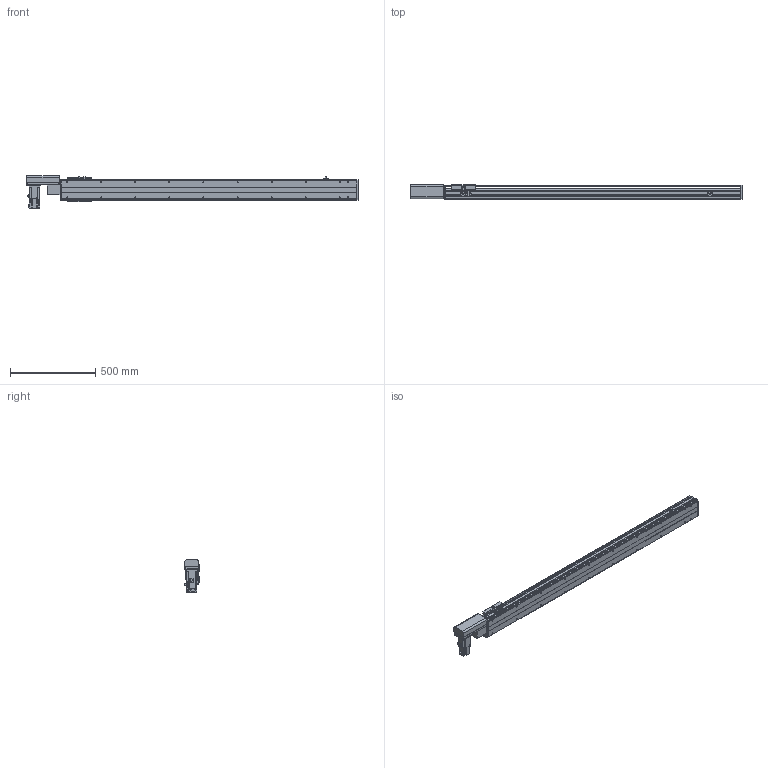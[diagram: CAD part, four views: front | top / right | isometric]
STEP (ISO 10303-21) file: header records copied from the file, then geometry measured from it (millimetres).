
FILE_DESCRIPTION( ( 'STEP AP214' ), '1' );
FILE_NAME( 'x:/temp/worker_27/temp/exporttempdir_6708_17_RYLxl/format_0/PBS120-P40-S1450-R-T40-C1-N(0).stp', '2022-06-06T00:07:52', ( 'License CC BY-ND 4.0' ), ( 'CADENAS' ), ' ', 'PARTsolutions', ' ' );
FILE_SCHEMA( ( 'AUTOMOTIVE_DESIGN { 1 0 10303 214 1 1 1 1 }' ) );
Length unit declared in the file: millimetre
Products named in the file (7): PBS120-P40-S1450-R-T40-C1-N(0); _PBS120-S1450()_body; _PBS120T-R_motors; _T40-p1; _PBS120_sliser; _PBS120_plant; _PBS120_sensor
Assembly tree (8 placements, depth 2):
  PBS120-P40-S1450-R-T40-C1-N(0)
    _PBS120-S1450()_body
    _PBS120T-R_motors
    _T40-p1
    _PBS120_sliser
    _PBS120_plant
    _PBS120_sensor  x3
Bounding box: 1951 x 83 x 189.7 mm (x, y, z)
Volume: 7425813 mm3; surface area: 1487076.9 mm2
Topology: 8 solids, 8 shells, 840 faces, 2176 edges, 1399 vertices
Faces by surface type: plane 553, cylinder 233, cone 52, torus 2
Full cylindrical faces by diameter (mm): 2.459 x6, 3.242 x4, 4 x2, 4.134 x4, 4.5 x10, 4.917 x24, 5.5 x11, 6 x2, 6.6 x1, 7 x2, 8.5 x4, 9 x4, 12 x1, 14 x1, 30 x2, 40 x1, 50 x2
Entity records: 27660 total; most frequent: DIRECTION 3788, CARTESIAN_POINT 3713, ORIENTED_EDGE 3526, EDGE_CURVE 1763, AXIS2_PLACEMENT_3D 1280, LINE 1228, VECTOR 1228, VERTEX_POINT 1205
